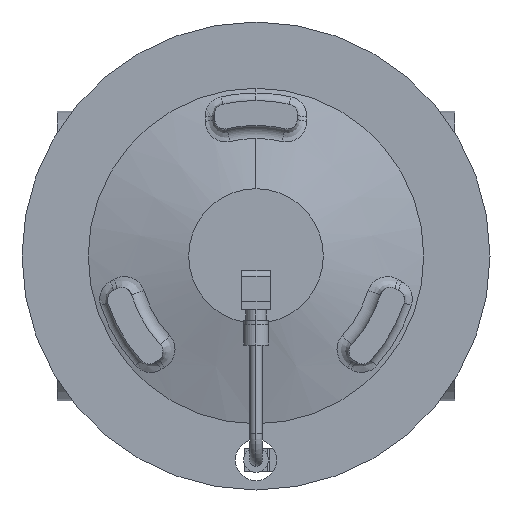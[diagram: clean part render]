
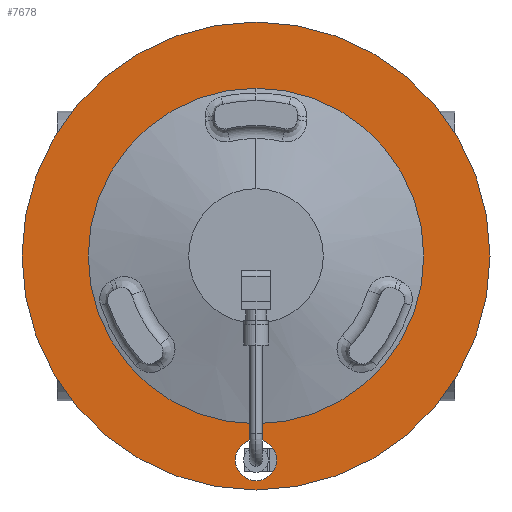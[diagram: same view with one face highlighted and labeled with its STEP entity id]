
A CAD part, front view. The second image highlights one B-rep face of the part: STEP entity #7678.
In plain terms, the highlighted planar face has unit normal (0, -1, 0).
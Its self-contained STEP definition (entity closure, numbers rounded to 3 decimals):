
#446 = DIRECTION ( 'NONE',  ( 0., -1., 0. ) ) ;
#458 = ORIENTED_EDGE ( 'NONE', *, *, #1432, .F. ) ;
#529 = EDGE_CURVE ( 'NONE', #6708, #4453, #9931, .T. ) ;
#598 = DIRECTION ( 'NONE',  ( 0., 1., 0. ) ) ;
#781 = DIRECTION ( 'NONE',  ( 0., 0., 1. ) ) ;
#798 = EDGE_LOOP ( 'NONE', ( #4389, #11038 ) ) ;
#1371 = EDGE_LOOP ( 'NONE', ( #7847, #458 ) ) ;
#1432 = EDGE_CURVE ( 'NONE', #1472, #13443, #7680, .T. ) ;
#1472 = VERTEX_POINT ( 'NONE', #7384 ) ;
#1795 = AXIS2_PLACEMENT_3D ( 'NONE', #7324, #8751, #12724 ) ;
#2106 = DIRECTION ( 'NONE',  ( 0., -1., 0. ) ) ;
#2199 = DIRECTION ( 'NONE',  ( 0., 0., -1. ) ) ;
#2634 = CARTESIAN_POINT ( 'NONE',  ( 0., -151.8, 81.017 ) ) ;
#2977 = PLANE ( 'NONE',  #16109 ) ;
#3325 = FACE_BOUND ( 'NONE', #5177, .T. ) ;
#3864 = EDGE_CURVE ( 'NONE', #8021, #8622, #9413, .T. ) ;
#4308 = DIRECTION ( 'NONE',  ( 0., 0., 1. ) ) ;
#4389 = ORIENTED_EDGE ( 'NONE', *, *, #6398, .F. ) ;
#4453 = VERTEX_POINT ( 'NONE', #2634 ) ;
#4553 = CARTESIAN_POINT ( 'NONE',  ( -113., -151.8, 0. ) ) ;
#5177 = EDGE_LOOP ( 'NONE', ( #12403, #5601 ) ) ;
#5193 = AXIS2_PLACEMENT_3D ( 'NONE', #9545, #446, #15194 ) ;
#5428 = AXIS2_PLACEMENT_3D ( 'NONE', #14204, #2106, #2199 ) ;
#5601 = ORIENTED_EDGE ( 'NONE', *, *, #529, .T. ) ;
#5956 = FACE_BOUND ( 'NONE', #1371, .T. ) ;
#6394 = DIRECTION ( 'NONE',  ( 0., 0., 1. ) ) ;
#6398 = EDGE_CURVE ( 'NONE', #8622, #8021, #14414, .T. ) ;
#6708 = VERTEX_POINT ( 'NONE', #13461 ) ;
#7096 = FACE_OUTER_BOUND ( 'NONE', #798, .T. ) ;
#7324 = CARTESIAN_POINT ( 'NONE',  ( 0., -151.8, 0. ) ) ;
#7384 = CARTESIAN_POINT ( 'NONE',  ( 0., -151.8, -108.5 ) ) ;
#7678 = ADVANCED_FACE ( 'NONE', ( #5956, #3325, #7096 ), #2977, .T. ) ;
#7680 = CIRCLE ( 'NONE', #5428, 10. ) ;
#7847 = ORIENTED_EDGE ( 'NONE', *, *, #12376, .F. ) ;
#8021 = VERTEX_POINT ( 'NONE', #16449 ) ;
#8622 = VERTEX_POINT ( 'NONE', #11448 ) ;
#8751 = DIRECTION ( 'NONE',  ( 0., 1., 0. ) ) ;
#9413 = CIRCLE ( 'NONE', #1795, 113. ) ;
#9434 = CIRCLE ( 'NONE', #5193, 10. ) ;
#9545 = CARTESIAN_POINT ( 'NONE',  ( 0., -151.8, -98.5 ) ) ;
#9756 = AXIS2_PLACEMENT_3D ( 'NONE', #11628, #598, #781 ) ;
#9931 = CIRCLE ( 'NONE', #10219, 81.017 ) ;
#10219 = AXIS2_PLACEMENT_3D ( 'NONE', #13204, #16114, #6394 ) ;
#10481 = AXIS2_PLACEMENT_3D ( 'NONE', #12351, #16921, #4308 ) ;
#11038 = ORIENTED_EDGE ( 'NONE', *, *, #3864, .F. ) ;
#11448 = CARTESIAN_POINT ( 'NONE',  ( 0., -151.8, 113. ) ) ;
#11628 = CARTESIAN_POINT ( 'NONE',  ( 0., -151.8, 0. ) ) ;
#12351 = CARTESIAN_POINT ( 'NONE',  ( 0., -151.8, 0. ) ) ;
#12376 = EDGE_CURVE ( 'NONE', #13443, #1472, #9434, .T. ) ;
#12403 = ORIENTED_EDGE ( 'NONE', *, *, #14179, .T. ) ;
#12724 = DIRECTION ( 'NONE',  ( 0., 0., 1. ) ) ;
#13204 = CARTESIAN_POINT ( 'NONE',  ( 0., -151.8, 0. ) ) ;
#13443 = VERTEX_POINT ( 'NONE', #13521 ) ;
#13461 = CARTESIAN_POINT ( 'NONE',  ( 0., -151.8, -81.017 ) ) ;
#13521 = CARTESIAN_POINT ( 'NONE',  ( 0., -151.8, -88.5 ) ) ;
#14179 = EDGE_CURVE ( 'NONE', #4453, #6708, #15405, .T. ) ;
#14204 = CARTESIAN_POINT ( 'NONE',  ( 0., -151.8, -98.5 ) ) ;
#14414 = CIRCLE ( 'NONE', #10481, 113. ) ;
#15194 = DIRECTION ( 'NONE',  ( 0., 0., -1. ) ) ;
#15405 = CIRCLE ( 'NONE', #9756, 81.017 ) ;
#16109 = AXIS2_PLACEMENT_3D ( 'NONE', #4553, #16666, #16750 ) ;
#16114 = DIRECTION ( 'NONE',  ( 0., 1., 0. ) ) ;
#16449 = CARTESIAN_POINT ( 'NONE',  ( 0., -151.8, -113. ) ) ;
#16666 = DIRECTION ( 'NONE',  ( 0., -1., 0. ) ) ;
#16750 = DIRECTION ( 'NONE',  ( 0., 0., -1. ) ) ;
#16921 = DIRECTION ( 'NONE',  ( 0., 1., 0. ) ) ;
